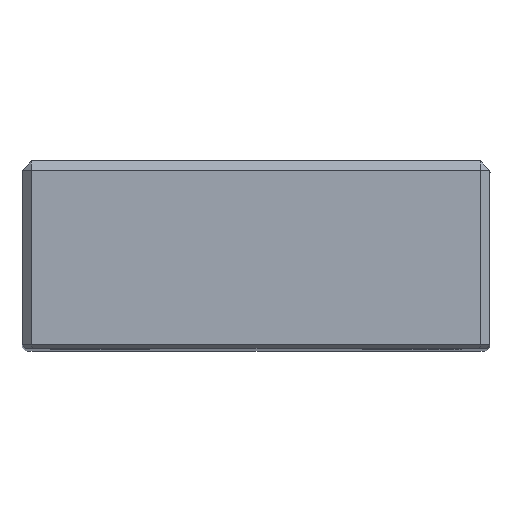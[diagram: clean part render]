
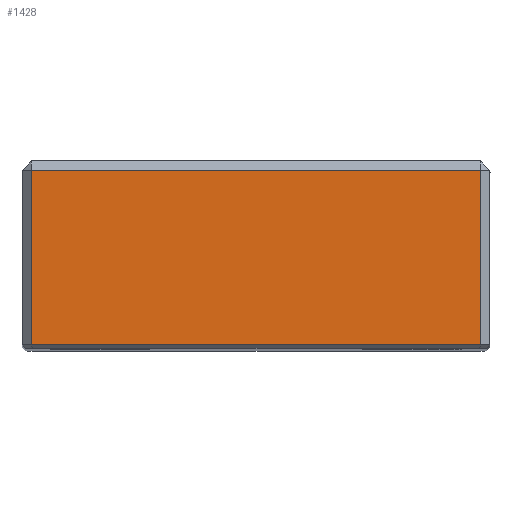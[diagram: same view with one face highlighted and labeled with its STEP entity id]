
A CAD part, top view. The second image highlights one B-rep face of the part: STEP entity #1428.
In plain terms, the highlighted planar face has unit normal (0, 0, 1).
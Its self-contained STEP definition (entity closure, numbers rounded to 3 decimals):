
#1401=AXIS2_PLACEMENT_3D('Plane Axis2P3D',#1398,#1399,#1400) ;
#605=CARTESIAN_POINT('Vertex',(-72.,-3.,0.)) ;
#608=CARTESIAN_POINT('Line Origine',(0.,-3.,0.)) ;
#612=CARTESIAN_POINT('Vertex',(72.,-3.,0.)) ;
#1398=CARTESIAN_POINT('Axis2P3D Location',(75.,0.,0.)) ;
#1403=CARTESIAN_POINT('Line Origine',(0.,-59.,0.)) ;
#1407=CARTESIAN_POINT('Vertex',(72.,-59.,0.)) ;
#1409=CARTESIAN_POINT('Vertex',(-72.,-59.,0.)) ;
#1412=CARTESIAN_POINT('Line Origine',(72.,-31.,0.)) ;
#1417=CARTESIAN_POINT('Line Origine',(-72.,-31.,0.)) ;
#609=DIRECTION('Vector Direction',(1.,0.,0.)) ;
#1399=DIRECTION('Axis2P3D Direction',(0.,0.,1.)) ;
#1400=DIRECTION('Axis2P3D XDirection',(-1.,0.,0.)) ;
#1404=DIRECTION('Vector Direction',(-1.,0.,0.)) ;
#1413=DIRECTION('Vector Direction',(0.,-1.,0.)) ;
#1418=DIRECTION('Vector Direction',(0.,1.,0.)) ;
#610=VECTOR('Line Direction',#609,1.) ;
#1405=VECTOR('Line Direction',#1404,1.) ;
#1414=VECTOR('Line Direction',#1413,1.) ;
#1419=VECTOR('Line Direction',#1418,1.) ;
#1423=ORIENTED_EDGE('',*,*,#1411,.F.) ;
#1424=ORIENTED_EDGE('',*,*,#1416,.F.) ;
#1425=ORIENTED_EDGE('',*,*,#614,.F.) ;
#1426=ORIENTED_EDGE('',*,*,#1421,.F.) ;
#1428=ADVANCED_FACE('MANIFOLD_SOLID_BREP #3306',(#1427),#1402,.T.) ;
#614=EDGE_CURVE('',#606,#613,#611,.T.) ;
#1411=EDGE_CURVE('',#1408,#1410,#1406,.T.) ;
#1416=EDGE_CURVE('',#613,#1408,#1415,.T.) ;
#1421=EDGE_CURVE('',#1410,#606,#1420,.T.) ;
#1422=EDGE_LOOP('',(#1423,#1424,#1425,#1426)) ;
#1427=FACE_OUTER_BOUND('',#1422,.T.) ;
#611=LINE('Line',#608,#610) ;
#1406=LINE('Line',#1403,#1405) ;
#1415=LINE('Line',#1412,#1414) ;
#1420=LINE('Line',#1417,#1419) ;
#1402=PLANE('Plane',#1401) ;
#606=VERTEX_POINT('',#605) ;
#613=VERTEX_POINT('',#612) ;
#1408=VERTEX_POINT('',#1407) ;
#1410=VERTEX_POINT('',#1409) ;
